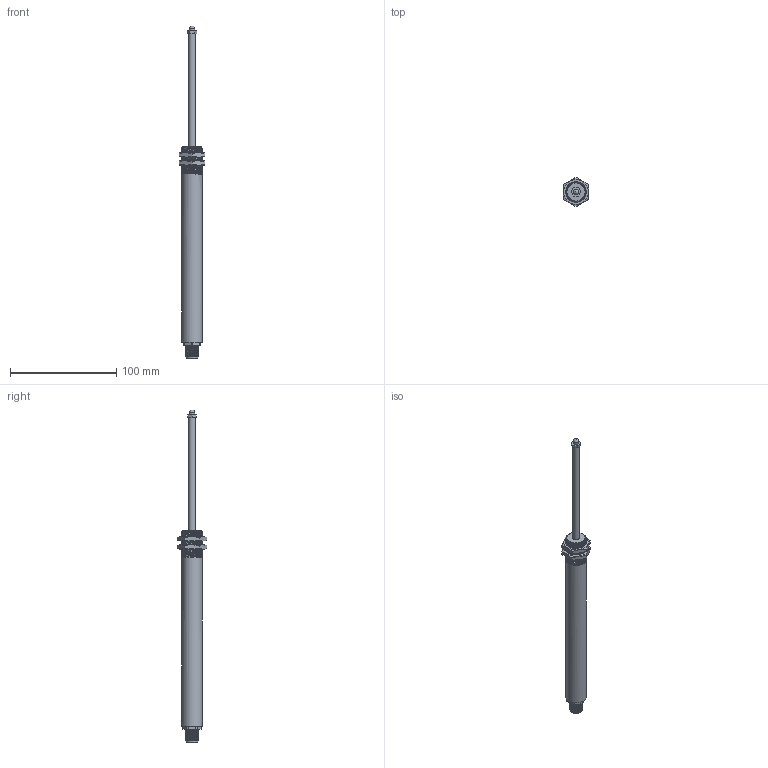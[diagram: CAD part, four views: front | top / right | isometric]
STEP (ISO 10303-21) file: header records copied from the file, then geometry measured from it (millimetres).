
FILE_DESCRIPTION(/* description */ (''),/* implementation_level */ '2;1');
FILE_NAME(/* name */ 'ILPS-18S-100-A-01-YY-Z.stp',/* time_stamp */ '2026-01-27T15:30:49-05:00',/* author */ ('wingm'),/* organization */ (''),/* preprocessor_version */ 'ST-DEVELOPER v20.1',/* originating_system */ 'Autodesk Inventor 2026',/* authorisation */ '');
FILE_SCHEMA (('AUTOMOTIVE_DESIGN { 1 0 10303 214 3 1 1 }'));
Length unit declared in the file: inch
Products named in the file (9): Assembly1; Body; End Cap; Shaft; Lining; Hex Nut; End Cap_1; M12 Connector; #11136
Assembly tree (9 placements, depth 2):
  Assembly1
    Body
    End Cap
    Shaft
    Lining
    Hex Nut  x2
    End Cap_1
    M12 Connector
    #11136
Bounding box: 24 x 27.71 x 312.93 mm (x, y, z)
Volume: 18254.2 mm3; surface area: 35501.2 mm2
Topology: 18 solids, 18 shells, 167 faces, 383 edges, 252 vertices
Faces by surface type: cylinder 73, plane 64, cone 12, bspline 12, sphere 6
Full cylindrical faces by diameter (mm): 1.05 x5, 1.905 x1, 2.845 x3, 5.08 x1, 6.35 x2, 6.858 x2, 8 x2, 10.6 x2, 12 x10, 13.185 x1, 17.069 x3, 19.05 x28
Entity records: 11215 total; most frequent: CARTESIAN_POINT 7633, ORIENTED_EDGE 660, DIRECTION 618, EDGE_CURVE 330, AXIS2_PLACEMENT_3D 245, VERTEX_POINT 222, EDGE_LOOP 166, FACE_OUTER_BOUND 148
